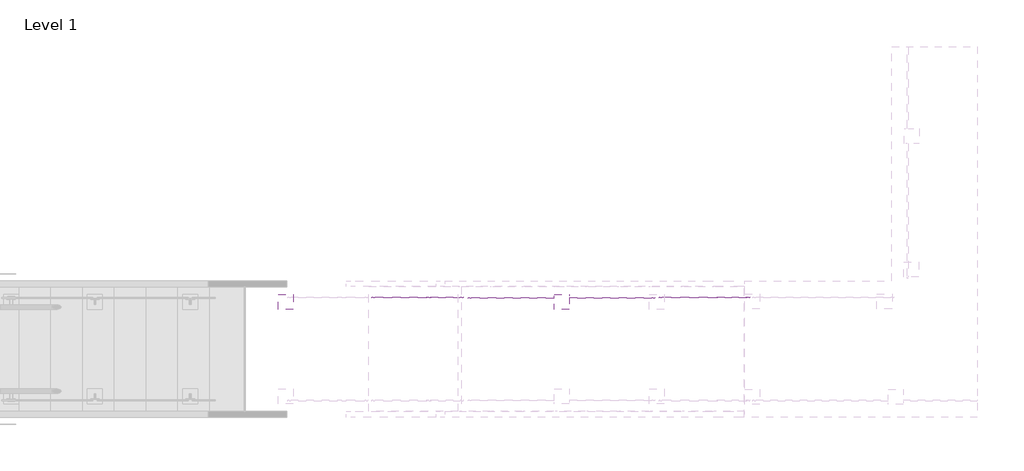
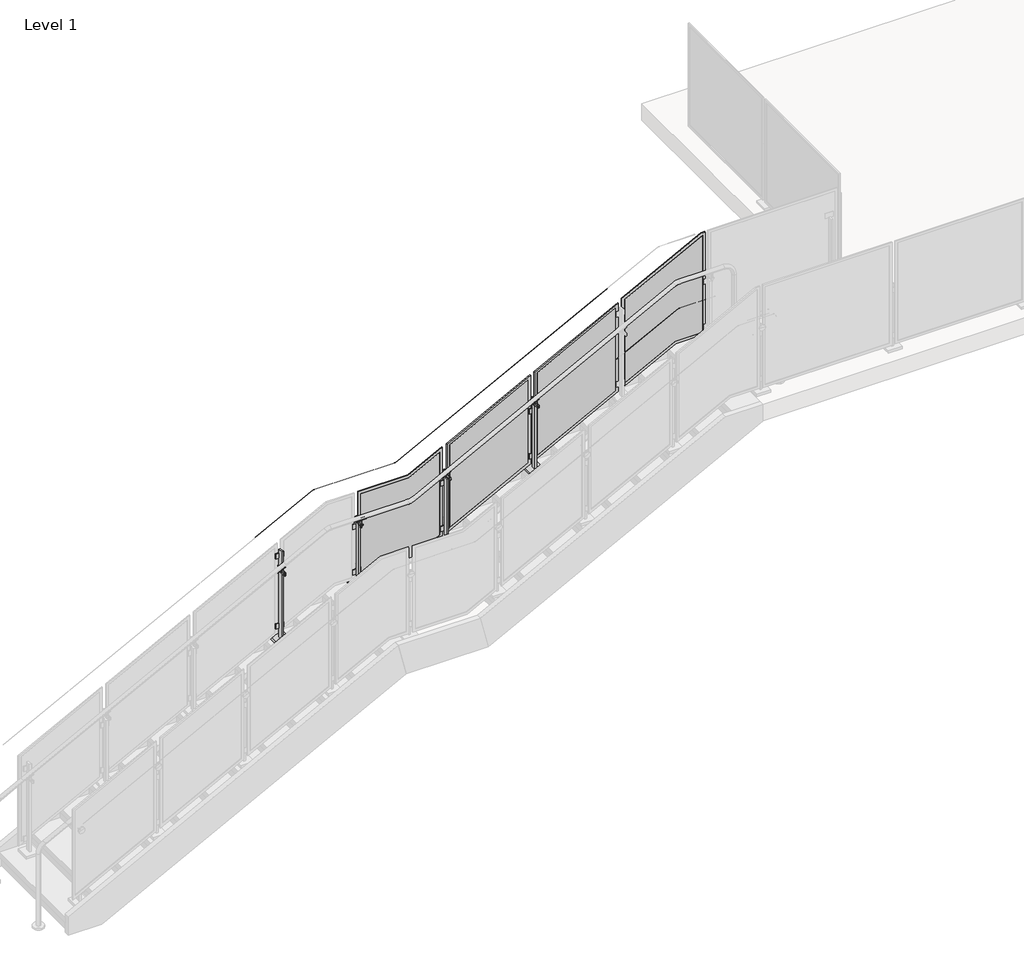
# One storey, part 14 of 28: 4 railings.
"""IFC4 building model written with IfcOpenShell, lengths in millimetres."""

from ifc_helpers import new_model, si_unit, point, frame, frame_2d, origin, place, context, project, spatial, polyline, circle_curve, ellipse_curve, trimmed, segment, composite_curve, outline, extrude, transform, mapped, element, save
from ifc_brep_helpers import plane_surface, cylinder_surface, advanced_brep
from components import standard_pp01_feaec1d1, standard_pp01_0bf05b01

model = new_model("IFC4")

# Units and contexts
model_context = context("Model", 3, world=origin())
ifc_project = project(units=[si_unit("LENGTHUNIT", "METRE", prefix="MILLI")], contexts=[model_context])

# Site, building, storey
site = spatial("IfcSite", under=ifc_project)
building = spatial("IfcBuilding", under=site)
storey = spatial("IfcBuildingStorey", under=building, Name="Level 1", Elevation=0.0)

# Railings
placement = place(None, origin())
element("IfcRailing", 1, ObjectType="Metal-Panel-VIVA-STRUC-Slab-Top-Anchor-Stairs-Landing", at=placement, inside=storey, context=model_context, shape_type="SolidModel", body=[
    advanced_brep(
    [(-16484.3313244, -17340.7578387, 2381.2638324), (-16484.3313244, -17339.7578387, 2381.2638324), (-15931.7592018, -17340.7578387, 2668.3142857), (-15931.7592018, -17339.7578387, 2668.3142857), (-15144.3592018, -17340.7578387, 2668.3142857), (-15144.3592018, -17339.7578387, 2668.3142857), (-13959.1395244, -17340.7578387, 3284.0128194), (-13959.1395244, -17339.7578387, 3284.0128194)],
    [
        (0, 1, ellipse_curve(frame((-16484.3313244, -17340.2578387, 2381.2638324), z_axis=(-1.0, 0.0, 0.0), x_axis=(0.0, 0.0, -1.0)), 0.5634403, 0.5)),
        (1, 0, ellipse_curve(frame((-16484.3313244, -17340.2578387, 2381.2638324), z_axis=(-1.0, 0.0, 0.0), x_axis=(0.0, 0.0, -1.0)), 0.5634403, 0.5)),
        (0, 2),
        (2, 3, ellipse_curve(frame((-15931.7592018, -17340.2578387, 2668.3142857), z_axis=(-0.9714436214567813, 0.0, -0.23727050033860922), x_axis=(0.23727050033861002, 0.0, -0.971443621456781)), 0.5146979, 0.5)),
        (3, 1),
        (3, 2, ellipse_curve(frame((-15931.7592018, -17340.2578387, 2668.3142857), z_axis=(-0.9714436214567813, 0.0, -0.23727050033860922), x_axis=(0.23727050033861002, 0.0, -0.971443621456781)), 0.5146979, 0.5)),
        (2, 4),
        (4, 5, ellipse_curve(frame((-15144.3592018, -17340.2578387, 2668.3142857), z_axis=(-0.9714436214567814, 0.0, -0.23727050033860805), x_axis=(-0.23727050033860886, 0.0, 0.9714436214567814)), 0.5146979, 0.5)),
        (5, 3),
        (5, 4, ellipse_curve(frame((-15144.3592018, -17340.2578387, 2668.3142857), z_axis=(-0.9714436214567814, 0.0, -0.23727050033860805), x_axis=(-0.23727050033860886, 0.0, 0.9714436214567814)), 0.5146979, 0.5)),
        (6, 7, ellipse_curve(frame((-13959.1395244, -17340.2578387, 3284.0128194), z_axis=(1.0, 0.0, 0.0), x_axis=(0.0, 0.0, -1.0)), 0.5634403, 0.5)),
        (7, 6, ellipse_curve(frame((-13959.1395244, -17340.2578387, 3284.0128194), z_axis=(1.0, 0.0, 0.0), x_axis=(0.0, 0.0, -1.0)), 0.5634403, 0.5)),
        (4, 6),
        (7, 5),
    ],
    [
        plane_surface(frame((-16484.3313244, -17340.2578387, 2381.8272727), z_axis=(-1.0, 0.0, 0.0), x_axis=(0.0, 1.0, 0.0))),
        cylinder_surface(frame((-16484.1008295, -17340.2578387, 2381.38357), z_axis=(-0.8874054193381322, 0.0, -0.4609898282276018), x_axis=(0.0, 1.0, 0.0)), 0.5),
        cylinder_surface(frame((-15931.8813244, -17340.2578387, 2668.3142857), z_axis=(-1.0, 0.0, 0.0), x_axis=(0.0, 1.0, 0.0)), 0.5),
        plane_surface(frame((-13959.1395244, -17340.2578387, 3284.5762597), z_axis=(1.0, 0.0, 0.0), x_axis=(0.0, 1.0, 0.0))),
        cylinder_surface(frame((-15144.2508295, -17340.2578387, 2668.370583), z_axis=(-0.8874054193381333, 0.0, -0.4609898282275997), x_axis=(0.0, 1.0, 0.0)), 0.5),
    ],
    [
        (0, [[1, 2]]),
        (1, [[-1, 3, 4, 5]]),
        (1, [[-2, -5, 6, -3]]),
        (2, [[-4, 7, 8, 9]]),
        (2, [[-6, -9, 10, -7]]),
        (3, [[11, 12]]),
        (4, [[-8, 13, -12, 14]]),
        (4, [[-10, -14, -11, -13]]),
    ],
),
    extrude(outline(polyline([(-14838.9708437, -17565.3750387), (-14838.9708437, -17558.2630387), (-14762.7694052, -17558.2630387), (-14762.7694052, -17565.3750387), (-14838.9708437, -17565.3750387)])), frame((0.0, 0.0, 2456.8331429), z_axis=(0.0, 0.0, 1.0), x_axis=(1.0, 0.0, 0.0)), (0.0, 0.0, 1.0), 50.8),
    extrude(outline(polyline([(-14838.9708437, -17565.3750387), (-14838.9708437, -17558.2630387), (-14762.7694052, -17558.2630387), (-14762.7694052, -17565.3750387), (-14838.9708437, -17565.3750387)])), frame((0.0, 0.0, 1999.6331429), z_axis=(0.0, 0.0, 1.0), x_axis=(1.0, 0.0, 0.0)), (0.0, 0.0, 1.0), 50.8),
    extrude(outline(composite_curve([segment(trimmed(circle_curve(frame_2d((-19.0451472, 1e-07)), 22.0448871), [point((2.99974, -1e-07))], [point((-24.3499073, -21.397116))], False, "CARTESIAN"), True, "CONTINUOUS"), segment(polyline([(-24.3499073, -21.397116), (-23.6280664, -18.4855208)]), True, "CONTINUOUS"), segment(trimmed(circle_curve(frame_2d((-19.0451472, 1e-07)), 19.0451471), [point((-23.6280664, -18.4855208))], [point((0.0, 0.0))], True, "CARTESIAN"), True, "CONTINUOUS"), segment(polyline([(0.0, 0.0), (2.99974, -1e-07)]), True, "CONTINUOUS")], self_intersect=False)), frame((-14863.3578349, -17619.4630387, 2605.6654072), z_axis=(0.887405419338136, 0.0, 0.46098982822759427), x_axis=(0.28405456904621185, 0.7876022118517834, -0.5468050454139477)), (0.0, 0.0, 1.0), 79.1184357),
    advanced_brep(
    [(-14788.4729468, -17634.4630387, 2547.3256434), (-14788.4729468, -17641.6067887, 2547.3256434), (-14788.4729468, -17627.3192887, 2547.3256434), (-14824.3321931, -17627.3192887, 2616.3546925), (-14824.3321931, -17641.6067887, 2616.3546925), (-14824.3321931, -17634.4630387, 2616.3546925)],
    [
        (0, 1),
        (1, 2, circle_curve(frame((-14788.4729468, -17634.4630387, 2547.3256434), z_axis=(0.4609898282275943, 0.0, -0.8874054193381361), x_axis=(0.0, -1.0, 0.0)), 7.14375)),
        (2, 0),
        (3, 4, circle_curve(frame((-14824.3321931, -17634.4630387, 2616.3546925), z_axis=(-0.4609898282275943, 0.0, 0.8874054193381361), x_axis=(0.0, -1.0, 0.0)), 7.14375)),
        (4, 5),
        (5, 3),
        (2, 1, circle_curve(frame((-14788.4729468, -17634.4630387, 2547.3256434), z_axis=(0.4609898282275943, 0.0, -0.8874054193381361), x_axis=(0.0, -1.0, 0.0)), 7.14375)),
        (4, 3, circle_curve(frame((-14824.3321931, -17634.4630387, 2616.3546925), z_axis=(-0.4609898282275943, 0.0, 0.8874054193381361), x_axis=(0.0, -1.0, 0.0)), 7.14375)),
        (1, 4),
        (3, 2),
    ],
    [
        plane_surface(frame((-14788.4729468, -17634.4630387, 2547.3256434), z_axis=(0.4609898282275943, 0.0, -0.8874054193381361), x_axis=(0.0, -1.0, 0.0))),
        plane_surface(frame((-14824.3321931, -17634.4630387, 2616.3546925), z_axis=(-0.4609898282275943, 0.0, 0.8874054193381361), x_axis=(0.0, -1.0, 0.0))),
        cylinder_surface(frame((-14671.5187469, -17634.4630387, 2322.1888087), z_axis=(0.4609898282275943, 0.0, -0.8874054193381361), x_axis=(0.0, -1.0, 0.0)), 7.14375),
    ],
    [
        (0, [[1, 2, 3]]),
        (1, [[4, 5, 6]]),
        (0, [[-3, 7, -1]]),
        (1, [[8, -6, -5]]),
        (2, [[-2, 9, -4, 10]]),
        (2, [[-7, -10, -8, -9]]),
    ],
),
    advanced_brep(
    [(-14827.6364904, -17548.7380387, 2557.2856047), (-14774.1037585, -17548.7380387, 2585.0948161), (-14795.2351, -17548.7380387, 2574.1174958), (-14806.5051488, -17548.7380387, 2568.262925), (-14827.6364904, -17540.8005387, 2557.2856047), (-14774.1037585, -17540.8005387, 2585.0948161), (-14827.6364904, -17566.2005387, 2557.2856047), (-14774.1037585, -17566.2005387, 2585.0948161), (-14789.6000756, -17566.2005387, 2577.0447812), (-14812.1401733, -17566.2005387, 2565.3356396), (-14827.6364904, -17558.2630387, 2557.2856047), (-14774.1037585, -17558.2630387, 2585.0948161), (-14800.8701244, -17540.8005387, 2571.1902104), (-14812.1401733, -17645.5755387, 2565.3356396), (-14789.6000756, -17645.5755387, 2577.0447812), (-14800.8701244, -17645.5755387, 2571.1902104), (-14806.5051488, -17558.2630387, 2568.262925), (-14795.2351, -17558.2630387, 2574.1174958)],
    [
        (0, 1, circle_curve(frame((-14800.8701244, -17548.7380387, 2571.1902104), z_axis=(0.0, -1.0, 0.0), x_axis=(0.8874054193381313, 0.0, 0.4609898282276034)), 30.1625)),
        (1, 2),
        (2, 3, circle_curve(frame((-14800.8701244, -17548.7380387, 2571.1902104), z_axis=(0.0, 1.0, 0.0), x_axis=(0.8874054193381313, 0.0, 0.4609898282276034)), 6.35)),
        (3, 0),
        (4, 5, circle_curve(frame((-14800.8701244, -17540.8005387, 2571.1902104), z_axis=(0.0, -1.0, 0.0), x_axis=(0.8874054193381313, 0.0, 0.4609898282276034)), 30.1625)),
        (5, 1),
        (0, 4),
        (6, 7, circle_curve(frame((-14800.8701244, -17566.2005387, 2571.1902104), z_axis=(0.0, -1.0, 0.0), x_axis=(0.8874054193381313, 0.0, 0.4609898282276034)), 30.1625)),
        (7, 8),
        (8, 9, circle_curve(frame((-14800.8701244, -17566.2005387, 2571.1902104), z_axis=(0.0, 1.0, 0.0), x_axis=(0.8874054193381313, 0.0, 0.4609898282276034)), 12.7)),
        (9, 6),
        (10, 11, circle_curve(frame((-14800.8701244, -17558.2630387, 2571.1902104), z_axis=(0.0, -1.0, 0.0), x_axis=(0.8874054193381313, 0.0, 0.4609898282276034)), 30.1625)),
        (11, 7),
        (6, 10),
        (5, 4, circle_curve(frame((-14800.8701244, -17540.8005387, 2571.1902104), z_axis=(0.0, -1.0, 0.0), x_axis=(0.8874054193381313, 0.0, 0.4609898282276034)), 30.1625)),
        (0, 1, circle_curve(frame((-14800.8701244, -17548.7380387, 2571.1902104), z_axis=(0.0, 1.0, 0.0), x_axis=(0.8874054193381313, 0.0, 0.4609898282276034)), 30.1625)),
        (12, 5),
        (4, 12),
        (13, 14, circle_curve(frame((-14800.8701244, -17645.5755387, 2571.1902104), z_axis=(0.0, -1.0, 0.0), x_axis=(0.8874054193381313, 0.0, 0.4609898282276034)), 12.7)),
        (14, 15),
        (15, 13),
        (14, 13, circle_curve(frame((-14800.8701244, -17645.5755387, 2571.1902104), z_axis=(0.0, -1.0, 0.0), x_axis=(0.8874054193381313, 0.0, 0.4609898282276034)), 12.7)),
        (8, 14),
        (13, 9),
        (8, 9, circle_curve(frame((-14800.8701244, -17566.2005387, 2571.1902104), z_axis=(0.0, -1.0, 0.0), x_axis=(0.8874054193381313, 0.0, 0.4609898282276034)), 12.7)),
        (7, 6, circle_curve(frame((-14800.8701244, -17566.2005387, 2571.1902104), z_axis=(0.0, -1.0, 0.0), x_axis=(0.8874054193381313, 0.0, 0.4609898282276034)), 30.1625)),
        (11, 10, circle_curve(frame((-14800.8701244, -17558.2630387, 2571.1902104), z_axis=(0.0, -1.0, 0.0), x_axis=(0.8874054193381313, 0.0, 0.4609898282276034)), 30.1625)),
        (16, 17, circle_curve(frame((-14800.8701244, -17558.2630387, 2571.1902104), z_axis=(0.0, -1.0, 0.0), x_axis=(0.8874054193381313, 0.0, 0.4609898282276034)), 6.35)),
        (17, 11),
        (10, 16),
        (17, 16, circle_curve(frame((-14800.8701244, -17558.2630387, 2571.1902104), z_axis=(0.0, -1.0, 0.0), x_axis=(0.8874054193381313, 0.0, 0.4609898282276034)), 6.35)),
        (2, 17),
        (16, 3),
        (2, 3, circle_curve(frame((-14800.8701244, -17548.7380387, 2571.1902104), z_axis=(0.0, -1.0, 0.0), x_axis=(0.8874054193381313, 0.0, 0.4609898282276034)), 6.35)),
    ],
    [
        plane_surface(frame((-14800.8701244, -17548.7380387, 2571.1902104), z_axis=(0.0, -1.0, 0.0), x_axis=(0.8874054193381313, 0.0, 0.4609898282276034))),
        cylinder_surface(frame((-14800.8701244, -16034.2630387, 2571.1902104), z_axis=(0.0, 1.0, 0.0), x_axis=(0.8874054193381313, 0.0, 0.4609898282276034)), 30.1625),
        plane_surface(frame((-14800.8701244, -17566.2005387, 2571.1902104), z_axis=(0.0, -1.0, 0.0), x_axis=(0.8874054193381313, 0.0, 0.4609898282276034))),
        plane_surface(frame((-14800.8701244, -17540.8005387, 2571.1902104), z_axis=(0.0, 1.0, 0.0), x_axis=(0.8874054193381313, 0.0, 0.4609898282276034))),
        plane_surface(frame((-14800.8701244, -17645.5755387, 2571.1902104), z_axis=(0.0, -1.0, 0.0), x_axis=(0.8874054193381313, 0.0, 0.4609898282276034))),
        cylinder_surface(frame((-14800.8701244, -16034.2630387, 2571.1902104), z_axis=(0.0, 1.0, 0.0), x_axis=(0.8874054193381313, 0.0, 0.4609898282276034)), 12.7),
        plane_surface(frame((-14800.8701244, -17558.2630387, 2571.1902104), z_axis=(0.0, 1.0, 0.0), x_axis=(0.8874054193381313, 0.0, 0.4609898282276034))),
        cylinder_surface(frame((-14800.8701244, -16034.2630387, 2571.1902104), z_axis=(0.0, 1.0, 0.0), x_axis=(0.8874054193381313, 0.0, 0.4609898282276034)), 6.35),
    ],
    [
        (0, [[1, 2, 3, 4]]),
        (1, [[5, 6, -1, 7]]),
        (2, [[8, 9, 10, 11]]),
        (1, [[12, 13, -8, 14]]),
        (1, [[15, -7, 16, -6]]),
        (3, [[17, -5, 18]]),
        (3, [[-18, -15, -17]]),
        (4, [[19, 20, 21]]),
        (4, [[22, -21, -20]]),
        (5, [[-10, 23, -19, 24]]),
        (5, [[25, -24, -22, -23]]),
        (2, [[26, -11, -25, -9]]),
        (1, [[27, -14, -26, -13]]),
        (6, [[28, 29, -12, 30]]),
        (6, [[31, -30, -27, -29]]),
        (7, [[-3, 32, -28, 33]]),
        (7, [[34, -33, -31, -32]]),
        (0, [[-16, -4, -34, -2]]),
    ],
),
    extrude(outline(polyline([(-14866.7577244, -17653.4876387), (-14866.7577244, -17521.7124387), (-14734.9825244, -17521.7124387), (-14734.9825244, -17653.4876387), (-14866.7577244, -17653.4876387)])), frame((0.0, 0.0, 1886.8571429), z_axis=(0.0, 0.0, 1.0), x_axis=(1.0, 0.0, 0.0)), (0.0, 0.0, 1.0), 25.4),
    extrude(outline(polyline([(-14808.8097161, -17609.8250387), (-14808.8097161, -17565.3750387), (-14792.9305328, -17565.3750387), (-14792.9305328, -17609.8250387), (-14808.8097161, -17609.8250387)])), frame((0.0, 0.0, 1886.8571429), z_axis=(0.0, 0.0, 1.0), x_axis=(1.0, 0.0, 0.0)), (0.0, 0.0, 1.0), 660.4),
    extrude(outline(polyline([(-15680.7014437, -17565.3750387), (-15680.7014437, -17558.2630387), (-15604.5000052, -17558.2630387), (-15604.5000052, -17565.3750387), (-15680.7014437, -17565.3750387)])), frame((0.0, 0.0, 2311.6902857), z_axis=(0.0, 0.0, 1.0), x_axis=(1.0, 0.0, 0.0)), (0.0, 0.0, 1.0), 50.8),
    extrude(outline(polyline([(-15680.7014437, -17565.3750387), (-15680.7014437, -17558.2630387), (-15604.5000052, -17558.2630387), (-15604.5000052, -17565.3750387), (-15680.7014437, -17565.3750387)])), frame((0.0, 0.0, 1854.4902857), z_axis=(0.0, 0.0, 1.0), x_axis=(1.0, 0.0, 0.0)), (0.0, 0.0, 1.0), 50.8),
    extrude(outline(composite_curve([segment(trimmed(circle_curve(frame_2d((-17634.4630387, 2463.8258766)), 22.0448871), [point((-17617.1004369, 2450.2421693))], [point((-17651.8256406, 2450.2421693))], False, "CARTESIAN"), True, "CONTINUOUS"), segment(polyline([(-17651.8256406, 2450.2421693), (-17649.4630387, 2452.0905611)]), True, "CONTINUOUS"), segment(trimmed(circle_curve(frame_2d((-17634.4630387, 2463.8258766)), 19.0451471), [point((-17649.4630387, 2452.0905611))], [point((-17619.4630387, 2452.0905611))], True, "CARTESIAN"), True, "CONTINUOUS"), segment(polyline([(-17619.4630387, 2452.0905611), (-17617.1004369, 2450.2421693)]), True, "CONTINUOUS")], self_intersect=False)), frame((-15682.1599423, 0.0, 0.0), z_axis=(1.0, 0.0, 0.0), x_axis=(0.0, 1.0, 0.0)), (0.0, 0.0, 1.0), 79.1184357),
    advanced_brep(
    [(-15642.6007244, -17634.4630387, 2365.7983669), (-15642.6007244, -17641.6067887, 2365.7983669), (-15642.6007244, -17627.3192887, 2365.7983669), (-15642.6007244, -17627.3192887, 2443.5858669), (-15642.6007244, -17641.6067887, 2443.5858669), (-15642.6007244, -17634.4630387, 2443.5858669)],
    [
        (0, 1),
        (1, 2, circle_curve(frame((-15642.6007244, -17634.4630387, 2365.7983669), z_axis=(0.0, 0.0, -1.0), x_axis=(0.0, -1.0, 0.0)), 7.14375)),
        (2, 0),
        (3, 4, circle_curve(frame((-15642.6007244, -17634.4630387, 2443.5858669), z_axis=(0.0, 0.0, 1.0), x_axis=(0.0, -1.0, 0.0)), 7.14375)),
        (4, 5),
        (5, 3),
        (2, 1, circle_curve(frame((-15642.6007244, -17634.4630387, 2365.7983669), z_axis=(0.0, 0.0, -1.0), x_axis=(0.0, -1.0, 0.0)), 7.14375)),
        (4, 3, circle_curve(frame((-15642.6007244, -17634.4630387, 2443.5858669), z_axis=(0.0, 0.0, 1.0), x_axis=(0.0, -1.0, 0.0)), 7.14375)),
        (1, 4),
        (3, 2),
    ],
    [
        plane_surface(frame((-15642.6007244, -17634.4630387, 2365.7983669), z_axis=(0.0, 0.0, -1.0), x_axis=(0.0, -1.0, 0.0))),
        plane_surface(frame((-15642.6007244, -17634.4630387, 2443.5858669), z_axis=(0.0, 0.0, 1.0), x_axis=(0.0, -1.0, 0.0))),
        cylinder_surface(frame((-15642.6007244, -17634.4630387, 2112.0960231), z_axis=(0.0, 0.0, -1.0), x_axis=(0.0, -1.0, 0.0)), 7.14375),
    ],
    [
        (0, [[1, 2, 3]]),
        (1, [[4, 5, 6]]),
        (0, [[-3, 7, -1]]),
        (1, [[8, -6, -5]]),
        (2, [[-2, 9, -4, 10]]),
        (2, [[-7, -10, -8, -9]]),
    ],
),
    advanced_brep(
    [(-15672.7632244, -17548.7380387, 2392.6908857), (-15612.4382244, -17548.7380387, 2392.6908857), (-15636.2507244, -17548.7380387, 2392.6908857), (-15648.9507244, -17548.7380387, 2392.6908857), (-15672.7632244, -17540.8005387, 2392.6908857), (-15612.4382244, -17540.8005387, 2392.6908857), (-15672.7632244, -17566.2005387, 2392.6908857), (-15612.4382244, -17566.2005387, 2392.6908857), (-15629.9007244, -17566.2005387, 2392.6908857), (-15655.3007244, -17566.2005387, 2392.6908857), (-15672.7632244, -17558.2630387, 2392.6908857), (-15612.4382244, -17558.2630387, 2392.6908857), (-15642.6007244, -17540.8005387, 2392.6908857), (-15655.3007244, -17645.5755387, 2392.6908857), (-15629.9007244, -17645.5755387, 2392.6908857), (-15642.6007244, -17645.5755387, 2392.6908857), (-15648.9507244, -17558.2630387, 2392.6908857), (-15636.2507244, -17558.2630387, 2392.6908857)],
    [
        (0, 1, circle_curve(frame((-15642.6007244, -17548.7380387, 2392.6908857), z_axis=(0.0, -1.0, 0.0), x_axis=(1.0, 0.0, 0.0)), 30.1625)),
        (1, 2),
        (2, 3, circle_curve(frame((-15642.6007244, -17548.7380387, 2392.6908857), z_axis=(0.0, 1.0, 0.0), x_axis=(1.0, 0.0, 0.0)), 6.35)),
        (3, 0),
        (4, 5, circle_curve(frame((-15642.6007244, -17540.8005387, 2392.6908857), z_axis=(0.0, -1.0, 0.0), x_axis=(1.0, 0.0, 0.0)), 30.1625)),
        (5, 1),
        (0, 4),
        (6, 7, circle_curve(frame((-15642.6007244, -17566.2005387, 2392.6908857), z_axis=(0.0, -1.0, 0.0), x_axis=(1.0, 0.0, 0.0)), 30.1625)),
        (7, 8),
        (8, 9, circle_curve(frame((-15642.6007244, -17566.2005387, 2392.6908857), z_axis=(0.0, 1.0, 0.0), x_axis=(1.0, 0.0, 0.0)), 12.7)),
        (9, 6),
        (10, 11, circle_curve(frame((-15642.6007244, -17558.2630387, 2392.6908857), z_axis=(0.0, -1.0, 0.0), x_axis=(1.0, 0.0, 0.0)), 30.1625)),
        (11, 7),
        (6, 10),
        (5, 4, circle_curve(frame((-15642.6007244, -17540.8005387, 2392.6908857), z_axis=(0.0, -1.0, 0.0), x_axis=(1.0, 0.0, 0.0)), 30.1625)),
        (0, 1, circle_curve(frame((-15642.6007244, -17548.7380387, 2392.6908857), z_axis=(0.0, 1.0, 0.0), x_axis=(1.0, 0.0, 0.0)), 30.1625)),
        (12, 5),
        (4, 12),
        (13, 14, circle_curve(frame((-15642.6007244, -17645.5755387, 2392.6908857), z_axis=(0.0, -1.0, 0.0), x_axis=(1.0, 0.0, 0.0)), 12.7)),
        (14, 15),
        (15, 13),
        (14, 13, circle_curve(frame((-15642.6007244, -17645.5755387, 2392.6908857), z_axis=(0.0, -1.0, 0.0), x_axis=(1.0, 0.0, 0.0)), 12.7)),
        (8, 14),
        (13, 9),
        (8, 9, circle_curve(frame((-15642.6007244, -17566.2005387, 2392.6908857), z_axis=(0.0, -1.0, 0.0), x_axis=(1.0, 0.0, 0.0)), 12.7)),
        (7, 6, circle_curve(frame((-15642.6007244, -17566.2005387, 2392.6908857), z_axis=(0.0, -1.0, 0.0), x_axis=(1.0, 0.0, 0.0)), 30.1625)),
        (11, 10, circle_curve(frame((-15642.6007244, -17558.2630387, 2392.6908857), z_axis=(0.0, -1.0, 0.0), x_axis=(1.0, 0.0, 0.0)), 30.1625)),
        (16, 17, circle_curve(frame((-15642.6007244, -17558.2630387, 2392.6908857), z_axis=(0.0, -1.0, 0.0), x_axis=(1.0, 0.0, 0.0)), 6.35)),
        (17, 11),
        (10, 16),
        (17, 16, circle_curve(frame((-15642.6007244, -17558.2630387, 2392.6908857), z_axis=(0.0, -1.0, 0.0), x_axis=(1.0, 0.0, 0.0)), 6.35)),
        (2, 17),
        (16, 3),
        (2, 3, circle_curve(frame((-15642.6007244, -17548.7380387, 2392.6908857), z_axis=(0.0, -1.0, 0.0), x_axis=(1.0, 0.0, 0.0)), 6.35)),
    ],
    [
        plane_surface(frame((-15642.6007244, -17548.7380387, 2392.6908857), z_axis=(0.0, -1.0, 0.0), x_axis=(1.0, 0.0, 0.0))),
        cylinder_surface(frame((-15642.6007244, -16034.2630387, 2392.6908857), z_axis=(0.0, 1.0, 0.0), x_axis=(1.0, 0.0, 0.0)), 30.1625),
        plane_surface(frame((-15642.6007244, -17566.2005387, 2392.6908857), z_axis=(0.0, -1.0, 0.0), x_axis=(1.0, 0.0, 0.0))),
        plane_surface(frame((-15642.6007244, -17540.8005387, 2392.6908857), z_axis=(0.0, 1.0, 0.0), x_axis=(1.0, 0.0, 0.0))),
        plane_surface(frame((-15642.6007244, -17645.5755387, 2392.6908857), z_axis=(0.0, -1.0, 0.0), x_axis=(1.0, 0.0, 0.0))),
        cylinder_surface(frame((-15642.6007244, -16034.2630387, 2392.6908857), z_axis=(0.0, 1.0, 0.0), x_axis=(1.0, 0.0, 0.0)), 12.7),
        plane_surface(frame((-15642.6007244, -17558.2630387, 2392.6908857), z_axis=(0.0, 1.0, 0.0), x_axis=(1.0, 0.0, 0.0))),
        cylinder_surface(frame((-15642.6007244, -16034.2630387, 2392.6908857), z_axis=(0.0, 1.0, 0.0), x_axis=(1.0, 0.0, 0.0)), 6.35),
    ],
    [
        (0, [[1, 2, 3, 4]]),
        (1, [[5, 6, -1, 7]]),
        (2, [[8, 9, 10, 11]]),
        (1, [[12, 13, -8, 14]]),
        (1, [[15, -7, 16, -6]]),
        (3, [[17, -5, 18]]),
        (3, [[-18, -15, -17]]),
        (4, [[19, 20, 21]]),
        (4, [[22, -21, -20]]),
        (5, [[-10, 23, -19, 24]]),
        (5, [[25, -24, -22, -23]]),
        (2, [[26, -11, -25, -9]]),
        (1, [[27, -14, -26, -13]]),
        (6, [[28, 29, -12, 30]]),
        (6, [[31, -30, -27, -29]]),
        (7, [[-3, 32, -28, 33]]),
        (7, [[34, -33, -31, -32]]),
        (0, [[-16, -4, -34, -2]]),
    ],
),
    extrude(outline(polyline([(-15708.4883244, -17653.4876387), (-15708.4883244, -17521.7124387), (-15576.7131244, -17521.7124387), (-15576.7131244, -17653.4876387), (-15708.4883244, -17653.4876387)])), frame((0.0, 0.0, 1741.7142857), z_axis=(0.0, 0.0, 1.0), x_axis=(1.0, 0.0, 0.0)), (0.0, 0.0, 1.0), 25.4),
    extrude(outline(polyline([(-15650.5403161, -17609.8250387), (-15650.5403161, -17565.3750387), (-15634.6611328, -17565.3750387), (-15634.6611328, -17609.8250387), (-15650.5403161, -17609.8250387)])), frame((0.0, 0.0, 1741.7142857), z_axis=(0.0, 0.0, 1.0), x_axis=(1.0, 0.0, 0.0)), (0.0, 0.0, 1.0), 660.4),
    extrude(outline(polyline([(-16420.8320437, -17565.3750387), (-16420.8320437, -17558.2630387), (-16344.6306052, -17558.2630387), (-16344.6306052, -17565.3750387), (-16420.8320437, -17565.3750387)])), frame((0.0, 0.0, 2275.4045714), z_axis=(0.0, 0.0, 1.0), x_axis=(1.0, 0.0, 0.0)), (0.0, 0.0, 1.0), 50.8),
    extrude(outline(polyline([(-16420.8320437, -17565.3750387), (-16420.8320437, -17558.2630387), (-16344.6306052, -17558.2630387), (-16344.6306052, -17565.3750387), (-16420.8320437, -17565.3750387)])), frame((0.0, 0.0, 1564.2045714), z_axis=(0.0, 0.0, 1.0), x_axis=(1.0, 0.0, 0.0)), (0.0, 0.0, 1.0), 50.8),
    extrude(outline(composite_curve([segment(trimmed(circle_curve(frame_2d((-19.0451472, 1e-07)), 22.0448871), [point((2.9997399, 0.0))], [point((-24.3499073, -21.3971159))], False, "CARTESIAN"), True, "CONTINUOUS"), segment(polyline([(-24.3499073, -21.3971159), (-23.6280664, -18.4855208)]), True, "CONTINUOUS"), segment(trimmed(circle_curve(frame_2d((-19.0451472, 1e-07)), 19.0451471), [point((-23.6280664, -18.4855208))], [point((0.0, 0.0))], True, "CARTESIAN"), True, "CONTINUOUS"), segment(polyline([(0.0, 0.0), (2.9997399, 0.0)]), True, "CONTINUOUS")], self_intersect=False)), frame((-16445.2190349, -17619.4630387, 2192.9582903), z_axis=(0.8874054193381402, 0.0, 0.4609898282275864), x_axis=(0.2840545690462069, 0.7876022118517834, -0.5468050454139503)), (0.0, 0.0, 1.0), 79.1184357),
    advanced_brep(
    [(-16370.3341468, -17634.4630387, 2134.6185266), (-16370.3341468, -17641.6067887, 2134.6185266), (-16370.3341468, -17627.3192887, 2134.6185266), (-16406.1933931, -17627.3192887, 2203.6475756), (-16406.1933931, -17641.6067887, 2203.6475756), (-16406.1933931, -17634.4630387, 2203.6475756)],
    [
        (0, 1),
        (1, 2, circle_curve(frame((-16370.3341468, -17634.4630387, 2134.6185266), z_axis=(0.4609898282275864, 0.0, -0.8874054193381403), x_axis=(0.0, -1.0000000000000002, 0.0)), 7.14375)),
        (2, 0),
        (3, 4, circle_curve(frame((-16406.1933931, -17634.4630387, 2203.6475756), z_axis=(-0.4609898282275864, 0.0, 0.8874054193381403), x_axis=(0.0, -1.0000000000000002, 0.0)), 7.14375)),
        (4, 5),
        (5, 3),
        (2, 1, circle_curve(frame((-16370.3341468, -17634.4630387, 2134.6185266), z_axis=(0.4609898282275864, 0.0, -0.8874054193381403), x_axis=(0.0, -1.0000000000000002, 0.0)), 7.14375)),
        (4, 3, circle_curve(frame((-16406.1933931, -17634.4630387, 2203.6475756), z_axis=(-0.4609898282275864, 0.0, 0.8874054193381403), x_axis=(0.0, -1.0000000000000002, 0.0)), 7.14375)),
        (1, 4),
        (3, 2),
    ],
    [
        plane_surface(frame((-16370.3341468, -17634.4630387, 2134.6185266), z_axis=(0.4609898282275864, 0.0, -0.8874054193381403), x_axis=(0.0, -1.0, 0.0))),
        plane_surface(frame((-16406.1933931, -17634.4630387, 2203.6475756), z_axis=(-0.4609898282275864, 0.0, 0.8874054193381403), x_axis=(0.0, -1.0, 0.0))),
        cylinder_surface(frame((-16253.3799469, -17634.4630387, 1909.4816918), z_axis=(0.4609898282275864, 0.0, -0.8874054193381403), x_axis=(0.0, -1.0000000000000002, 0.0)), 7.14375),
    ],
    [
        (0, [[1, 2, 3]]),
        (1, [[4, 5, 6]]),
        (0, [[-3, 7, -1]]),
        (1, [[8, -6, -5]]),
        (2, [[-2, 9, -4, 10]]),
        (2, [[-7, -10, -8, -9]]),
    ],
),
    advanced_brep(
    [(-16409.4976904, -17548.7380387, 2144.5784878), (-16355.9649585, -17548.7380387, 2172.3876992), (-16377.0963, -17548.7380387, 2161.4103789), (-16388.3663488, -17548.7380387, 2155.5558081), (-16409.4976904, -17540.8005387, 2144.5784878), (-16355.9649585, -17540.8005387, 2172.3876992), (-16409.4976904, -17566.2005387, 2144.5784878), (-16355.9649585, -17566.2005387, 2172.3876992), (-16371.4612756, -17566.2005387, 2164.3376643), (-16394.0013733, -17566.2005387, 2152.6285227), (-16409.4976904, -17558.2630387, 2144.5784878), (-16355.9649585, -17558.2630387, 2172.3876992), (-16382.7313244, -17540.8005387, 2158.4830935), (-16394.0013733, -17645.5755387, 2152.6285227), (-16371.4612756, -17645.5755387, 2164.3376643), (-16382.7313244, -17645.5755387, 2158.4830935), (-16388.3663488, -17558.2630387, 2155.5558081), (-16377.0963, -17558.2630387, 2161.4103789)],
    [
        (0, 1, circle_curve(frame((-16382.7313244, -17548.7380387, 2158.4830935), z_axis=(0.0, -1.0, 0.0), x_axis=(0.8874054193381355, 0.0, 0.4609898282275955)), 30.1625)),
        (1, 2),
        (2, 3, circle_curve(frame((-16382.7313244, -17548.7380387, 2158.4830935), z_axis=(0.0, 1.0, 0.0), x_axis=(0.8874054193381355, 0.0, 0.4609898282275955)), 6.35)),
        (3, 0),
        (4, 5, circle_curve(frame((-16382.7313244, -17540.8005387, 2158.4830935), z_axis=(0.0, -1.0, 0.0), x_axis=(0.8874054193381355, 0.0, 0.4609898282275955)), 30.1625)),
        (5, 1),
        (0, 4),
        (6, 7, circle_curve(frame((-16382.7313244, -17566.2005387, 2158.4830935), z_axis=(0.0, -1.0, 0.0), x_axis=(0.8874054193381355, 0.0, 0.4609898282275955)), 30.1625)),
        (7, 8),
        (8, 9, circle_curve(frame((-16382.7313244, -17566.2005387, 2158.4830935), z_axis=(0.0, 1.0, 0.0), x_axis=(0.8874054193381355, 0.0, 0.4609898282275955)), 12.7)),
        (9, 6),
        (10, 11, circle_curve(frame((-16382.7313244, -17558.2630387, 2158.4830935), z_axis=(0.0, -1.0, 0.0), x_axis=(0.8874054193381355, 0.0, 0.4609898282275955)), 30.1625)),
        (11, 7),
        (6, 10),
        (5, 4, circle_curve(frame((-16382.7313244, -17540.8005387, 2158.4830935), z_axis=(0.0, -1.0, 0.0), x_axis=(0.8874054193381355, 0.0, 0.4609898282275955)), 30.1625)),
        (0, 1, circle_curve(frame((-16382.7313244, -17548.7380387, 2158.4830935), z_axis=(0.0, 1.0, 0.0), x_axis=(0.8874054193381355, 0.0, 0.4609898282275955)), 30.1625)),
        (12, 5),
        (4, 12),
        (13, 14, circle_curve(frame((-16382.7313244, -17645.5755387, 2158.4830935), z_axis=(0.0, -1.0, 0.0), x_axis=(0.8874054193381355, 0.0, 0.4609898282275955)), 12.7)),
        (14, 15),
        (15, 13),
        (14, 13, circle_curve(frame((-16382.7313244, -17645.5755387, 2158.4830935), z_axis=(0.0, -1.0, 0.0), x_axis=(0.8874054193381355, 0.0, 0.4609898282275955)), 12.7)),
        (8, 14),
        (13, 9),
        (8, 9, circle_curve(frame((-16382.7313244, -17566.2005387, 2158.4830935), z_axis=(0.0, -1.0, 0.0), x_axis=(0.8874054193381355, 0.0, 0.4609898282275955)), 12.7)),
        (7, 6, circle_curve(frame((-16382.7313244, -17566.2005387, 2158.4830935), z_axis=(0.0, -1.0, 0.0), x_axis=(0.8874054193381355, 0.0, 0.4609898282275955)), 30.1625)),
        (11, 10, circle_curve(frame((-16382.7313244, -17558.2630387, 2158.4830935), z_axis=(0.0, -1.0, 0.0), x_axis=(0.8874054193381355, 0.0, 0.4609898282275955)), 30.1625)),
        (16, 17, circle_curve(frame((-16382.7313244, -17558.2630387, 2158.4830935), z_axis=(0.0, -1.0, 0.0), x_axis=(0.8874054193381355, 0.0, 0.4609898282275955)), 6.35)),
        (17, 11),
        (10, 16),
        (17, 16, circle_curve(frame((-16382.7313244, -17558.2630387, 2158.4830935), z_axis=(0.0, -1.0, 0.0), x_axis=(0.8874054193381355, 0.0, 0.4609898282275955)), 6.35)),
        (2, 17),
        (16, 3),
        (2, 3, circle_curve(frame((-16382.7313244, -17548.7380387, 2158.4830935), z_axis=(0.0, -1.0, 0.0), x_axis=(0.8874054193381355, 0.0, 0.4609898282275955)), 6.35)),
    ],
    [
        plane_surface(frame((-16382.7313244, -17548.7380387, 2158.4830935), z_axis=(0.0, -1.0000000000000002, 0.0), x_axis=(0.8874054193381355, 0.0, 0.4609898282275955))),
        cylinder_surface(frame((-16382.7313244, -16034.2630387, 2158.4830935), z_axis=(0.0, 1.0000000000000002, 0.0), x_axis=(0.8874054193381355, 0.0, 0.4609898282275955)), 30.1625),
        plane_surface(frame((-16382.7313244, -17566.2005387, 2158.4830935), z_axis=(0.0, -1.0000000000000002, 0.0), x_axis=(0.8874054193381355, 0.0, 0.4609898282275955))),
        plane_surface(frame((-16382.7313244, -17540.8005387, 2158.4830935), z_axis=(0.0, 1.0000000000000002, 0.0), x_axis=(0.8874054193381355, 0.0, 0.4609898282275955))),
        plane_surface(frame((-16382.7313244, -17645.5755387, 2158.4830935), z_axis=(0.0, -1.0000000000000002, 0.0), x_axis=(0.8874054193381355, 0.0, 0.4609898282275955))),
        cylinder_surface(frame((-16382.7313244, -16034.2630387, 2158.4830935), z_axis=(0.0, 1.0000000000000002, 0.0), x_axis=(0.8874054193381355, 0.0, 0.4609898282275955)), 12.7),
        plane_surface(frame((-16382.7313244, -17558.2630387, 2158.4830935), z_axis=(0.0, 1.0000000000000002, 0.0), x_axis=(0.8874054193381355, 0.0, 0.4609898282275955))),
        cylinder_surface(frame((-16382.7313244, -16034.2630387, 2158.4830935), z_axis=(0.0, 1.0000000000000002, 0.0), x_axis=(0.8874054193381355, 0.0, 0.4609898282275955)), 6.35),
    ],
    [
        (0, [[1, 2, 3, 4]]),
        (1, [[5, 6, -1, 7]]),
        (2, [[8, 9, 10, 11]]),
        (1, [[12, 13, -8, 14]]),
        (1, [[15, -7, 16, -6]]),
        (3, [[17, -5, 18]]),
        (3, [[-18, -15, -17]]),
        (4, [[19, 20, 21]]),
        (4, [[22, -21, -20]]),
        (5, [[-10, 23, -19, 24]]),
        (5, [[25, -24, -22, -23]]),
        (2, [[26, -11, -25, -9]]),
        (1, [[27, -14, -26, -13]]),
        (6, [[28, 29, -12, 30]]),
        (6, [[31, -30, -27, -29]]),
        (7, [[-3, 32, -28, 33]]),
        (7, [[34, -33, -31, -32]]),
        (0, [[-16, -4, -34, -2]]),
    ],
),
    extrude(outline(polyline([(-16448.6189244, -17653.4876387), (-16448.6189244, -17521.7124387), (-16316.8437244, -17521.7124387), (-16316.8437244, -17653.4876387), (-16448.6189244, -17653.4876387)])), frame((0.0, 0.0, 1451.4285714), z_axis=(0.0, 0.0, 1.0), x_axis=(1.0, 0.0, 0.0)), (0.0, 0.0, 1.0), 25.4),
    extrude(outline(polyline([(-16390.6709161, -17609.8250387), (-16390.6709161, -17565.3750387), (-16374.7917328, -17565.3750387), (-16374.7917328, -17609.8250387), (-16390.6709161, -17609.8250387)])), frame((0.0, 0.0, 1451.4285714), z_axis=(0.0, 0.0, 1.0), x_axis=(1.0, 0.0, 0.0)), (0.0, 0.0, 1.0), 914.4),
])
element("IfcRailing", 2, ObjectType="Metal-Panel-VIVA-STRUC-Slab-Top-Anchor-Stairs-Upper", at=placement, inside=storey, context=model_context, shape_type="SolidModel", body=[
    advanced_brep(
    [(-14795.2265621, -17340.7578387, 2849.6818907), (-14795.2265621, -17339.7578387, 2849.6818907), (-13118.8265621, -17340.7578387, 3720.5390336), (-13118.8265621, -17339.7578387, 3720.5390336)],
    [
        (0, 1, ellipse_curve(frame((-14795.2265621, -17340.2578387, 2849.6818907), z_axis=(-1.0, 0.0, 0.0), x_axis=(0.0, 0.0, -1.0)), 0.5634403, 0.5)),
        (1, 0, ellipse_curve(frame((-14795.2265621, -17340.2578387, 2849.6818907), z_axis=(-1.0, 0.0, 0.0), x_axis=(0.0, 0.0, -1.0)), 0.5634403, 0.5)),
        (2, 3, ellipse_curve(frame((-13118.8265621, -17340.2578387, 3720.5390336), z_axis=(1.0, 0.0, 0.0), x_axis=(0.0, 0.0, -1.0)), 0.5634403, 0.5)),
        (3, 2, ellipse_curve(frame((-13118.8265621, -17340.2578387, 3720.5390336), z_axis=(1.0, 0.0, 0.0), x_axis=(0.0, 0.0, -1.0)), 0.5634403, 0.5)),
        (0, 2),
        (3, 1),
    ],
    [
        plane_surface(frame((-14795.2265621, -17340.2578387, 2850.2453311), z_axis=(-1.0, 0.0, 0.0), x_axis=(0.0, 1.0, 0.0))),
        plane_surface(frame((-13118.8265621, -17340.2578387, 3721.1024739), z_axis=(1.0, 0.0, 0.0), x_axis=(0.0, 1.0, 0.0))),
        cylinder_surface(frame((-14794.9960672, -17340.2578387, 2849.8016284), z_axis=(-0.8874054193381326, 0.0, -0.46098982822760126), x_axis=(0.0, 1.0, 0.0)), 0.5),
    ],
    [
        (0, [[1, 2]]),
        (1, [[3, 4]]),
        (2, [[-1, 5, -4, 6]]),
        (2, [[-2, -6, -3, -5]]),
    ],
),
    extrude(outline(polyline([(2443.6978914, -13912.5806052), (2832.9488452, -13163.2725191), (3666.9458682, -13163.2725191), (3277.6949144, -13912.5806052), (2443.6978914, -13912.5806052)])), frame((0.0, -17557.9088387, 0.0), z_axis=(0.0, 1.0, 0.0), x_axis=(0.0, 0.0, 1.0)), (0.0, 0.0, 1.0), 3.0),
    extrude(outline(polyline([(3293.1228778, -13937.9806052), (2401.8803176, -13937.9806052), (2817.5208818, -13137.8725191), (3708.7634421, -13137.8725191), (3293.1228778, -13937.9806052)]), holes=[polyline([(2443.6978914, -13912.5806052), (3277.6949144, -13912.5806052), (3666.9458682, -13163.2725191), (2832.9488452, -13163.2725191), (2443.6978914, -13912.5806052)])]), frame((0.0, -17557.9088387, 0.0), z_axis=(0.0, 1.0, 0.0), x_axis=(0.0, 0.0, 1.0)), (0.0, 0.0, 1.0), 9.525),
    extrude(outline(polyline([(-13995.1272814, -17565.3750387), (-13995.1272814, -17558.2630387), (-13918.9258429, -17558.2630387), (-13918.9258429, -17565.3750387), (-13995.1272814, -17565.3750387)])), frame((0.0, 0.0, 2892.2617143), z_axis=(0.0, 0.0, 1.0), x_axis=(1.0, 0.0, 0.0)), (0.0, 0.0, 1.0), 50.8),
    extrude(outline(polyline([(-13995.1272814, -17565.3750387), (-13995.1272814, -17558.2630387), (-13918.9258429, -17558.2630387), (-13918.9258429, -17565.3750387), (-13995.1272814, -17565.3750387)])), frame((0.0, 0.0, 2435.0617143), z_axis=(0.0, 0.0, 1.0), x_axis=(1.0, 0.0, 0.0)), (0.0, 0.0, 1.0), 50.8),
    extrude(outline(composite_curve([segment(trimmed(circle_curve(frame_2d((-19.0451472, 1e-07)), 22.0448871), [point((2.9997399, 0.0))], [point((-24.3499073, -21.3971159))], False, "CARTESIAN"), True, "CONTINUOUS"), segment(polyline([(-24.3499073, -21.3971159), (-23.6280664, -18.4855208)]), True, "CONTINUOUS"), segment(trimmed(circle_curve(frame_2d((-19.0451472, 1e-07)), 19.0451471), [point((-23.6280664, -18.4855208))], [point((0.0, 0.0))], True, "CARTESIAN"), True, "CONTINUOUS"), segment(polyline([(0.0, 0.0), (2.9997399, 0.0)]), True, "CONTINUOUS")], self_intersect=False)), frame((-14019.5142726, -17619.4630387, 3044.0256993), z_axis=(0.8874054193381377, 0.0, 0.46098982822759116), x_axis=(0.28405456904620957, 0.7876022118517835, -0.5468050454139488)), (0.0, 0.0, 1.0), 79.1184357),
    advanced_brep(
    [(-13944.6293845, -17634.4630387, 2985.6859356), (-13944.6293845, -17641.6067887, 2985.6859356), (-13944.6293845, -17627.3192887, 2985.6859356), (-13980.4886307, -17627.3192887, 3054.7149846), (-13980.4886307, -17641.6067887, 3054.7149846), (-13980.4886307, -17634.4630387, 3054.7149846)],
    [
        (0, 1),
        (1, 2, circle_curve(frame((-13944.6293845, -17634.4630387, 2985.6859356), z_axis=(0.46098982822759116, 0.0, -0.8874054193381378), x_axis=(0.0, -1.0, 0.0)), 7.14375)),
        (2, 0),
        (3, 4, circle_curve(frame((-13980.4886307, -17634.4630387, 3054.7149846), z_axis=(-0.46098982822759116, 0.0, 0.8874054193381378), x_axis=(0.0, -1.0, 0.0)), 7.14375)),
        (4, 5),
        (5, 3),
        (2, 1, circle_curve(frame((-13944.6293845, -17634.4630387, 2985.6859356), z_axis=(0.46098982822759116, 0.0, -0.8874054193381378), x_axis=(0.0, -1.0, 0.0)), 7.14375)),
        (4, 3, circle_curve(frame((-13980.4886307, -17634.4630387, 3054.7149846), z_axis=(-0.46098982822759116, 0.0, 0.8874054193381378), x_axis=(0.0, -1.0, 0.0)), 7.14375)),
        (1, 4),
        (3, 2),
    ],
    [
        plane_surface(frame((-13944.6293845, -17634.4630387, 2985.6859356), z_axis=(0.46098982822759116, 0.0, -0.8874054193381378), x_axis=(0.0, -1.0, 0.0))),
        plane_surface(frame((-13980.4886307, -17634.4630387, 3054.7149846), z_axis=(-0.46098982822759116, 0.0, 0.8874054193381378), x_axis=(0.0, -1.0, 0.0))),
        cylinder_surface(frame((-13827.6751846, -17634.4630387, 2760.5491008), z_axis=(0.46098982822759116, 0.0, -0.8874054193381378), x_axis=(0.0, -1.0, 0.0)), 7.14375),
    ],
    [
        (0, [[1, 2, 3]]),
        (1, [[4, 5, 6]]),
        (0, [[-3, 7, -1]]),
        (1, [[8, -6, -5]]),
        (2, [[-2, 9, -4, 10]]),
        (2, [[-7, -10, -8, -9]]),
    ],
),
    advanced_brep(
    [(-13983.7929281, -17548.7380387, 2995.6458968), (-13930.2601962, -17548.7380387, 3023.4551082), (-13951.3915377, -17548.7380387, 3012.4777879), (-13962.6615865, -17548.7380387, 3006.6232171), (-13983.7929281, -17540.8005387, 2995.6458968), (-13930.2601962, -17540.8005387, 3023.4551082), (-13983.7929281, -17566.2005387, 2995.6458968), (-13930.2601962, -17566.2005387, 3023.4551082), (-13945.7565133, -17566.2005387, 3015.4050733), (-13968.2966109, -17566.2005387, 3003.6959317), (-13983.7929281, -17558.2630387, 2995.6458968), (-13930.2601962, -17558.2630387, 3023.4551082), (-13957.0265621, -17540.8005387, 3009.5505025), (-13968.2966109, -17645.5755387, 3003.6959317), (-13945.7565133, -17645.5755387, 3015.4050733), (-13957.0265621, -17645.5755387, 3009.5505025), (-13962.6615865, -17558.2630387, 3006.6232171), (-13951.3915377, -17558.2630387, 3012.4777879)],
    [
        (0, 1, circle_curve(frame((-13957.0265621, -17548.7380387, 3009.5505025), z_axis=(0.0, -1.0, 0.0), x_axis=(0.887405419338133, 0.0, 0.46098982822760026)), 30.1625)),
        (1, 2),
        (2, 3, circle_curve(frame((-13957.0265621, -17548.7380387, 3009.5505025), z_axis=(0.0, 1.0, 0.0), x_axis=(0.887405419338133, 0.0, 0.46098982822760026)), 6.35)),
        (3, 0),
        (4, 5, circle_curve(frame((-13957.0265621, -17540.8005387, 3009.5505025), z_axis=(0.0, -1.0, 0.0), x_axis=(0.887405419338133, 0.0, 0.46098982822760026)), 30.1625)),
        (5, 1),
        (0, 4),
        (6, 7, circle_curve(frame((-13957.0265621, -17566.2005387, 3009.5505025), z_axis=(0.0, -1.0, 0.0), x_axis=(0.887405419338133, 0.0, 0.46098982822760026)), 30.1625)),
        (7, 8),
        (8, 9, circle_curve(frame((-13957.0265621, -17566.2005387, 3009.5505025), z_axis=(0.0, 1.0, 0.0), x_axis=(0.887405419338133, 0.0, 0.46098982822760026)), 12.7)),
        (9, 6),
        (10, 11, circle_curve(frame((-13957.0265621, -17558.2630387, 3009.5505025), z_axis=(0.0, -1.0, 0.0), x_axis=(0.887405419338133, 0.0, 0.46098982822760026)), 30.1625)),
        (11, 7),
        (6, 10),
        (5, 4, circle_curve(frame((-13957.0265621, -17540.8005387, 3009.5505025), z_axis=(0.0, -1.0, 0.0), x_axis=(0.887405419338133, 0.0, 0.46098982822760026)), 30.1625)),
        (0, 1, circle_curve(frame((-13957.0265621, -17548.7380387, 3009.5505025), z_axis=(0.0, 1.0, 0.0), x_axis=(0.887405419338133, 0.0, 0.46098982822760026)), 30.1625)),
        (12, 5),
        (4, 12),
        (13, 14, circle_curve(frame((-13957.0265621, -17645.5755387, 3009.5505025), z_axis=(0.0, -1.0, 0.0), x_axis=(0.887405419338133, 0.0, 0.46098982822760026)), 12.7)),
        (14, 15),
        (15, 13),
        (14, 13, circle_curve(frame((-13957.0265621, -17645.5755387, 3009.5505025), z_axis=(0.0, -1.0, 0.0), x_axis=(0.887405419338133, 0.0, 0.46098982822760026)), 12.7)),
        (8, 14),
        (13, 9),
        (8, 9, circle_curve(frame((-13957.0265621, -17566.2005387, 3009.5505025), z_axis=(0.0, -1.0, 0.0), x_axis=(0.887405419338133, 0.0, 0.46098982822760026)), 12.7)),
        (7, 6, circle_curve(frame((-13957.0265621, -17566.2005387, 3009.5505025), z_axis=(0.0, -1.0, 0.0), x_axis=(0.887405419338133, 0.0, 0.46098982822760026)), 30.1625)),
        (11, 10, circle_curve(frame((-13957.0265621, -17558.2630387, 3009.5505025), z_axis=(0.0, -1.0, 0.0), x_axis=(0.887405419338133, 0.0, 0.46098982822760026)), 30.1625)),
        (16, 17, circle_curve(frame((-13957.0265621, -17558.2630387, 3009.5505025), z_axis=(0.0, -1.0, 0.0), x_axis=(0.887405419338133, 0.0, 0.46098982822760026)), 6.35)),
        (17, 11),
        (10, 16),
        (17, 16, circle_curve(frame((-13957.0265621, -17558.2630387, 3009.5505025), z_axis=(0.0, -1.0, 0.0), x_axis=(0.887405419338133, 0.0, 0.46098982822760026)), 6.35)),
        (2, 17),
        (16, 3),
        (2, 3, circle_curve(frame((-13957.0265621, -17548.7380387, 3009.5505025), z_axis=(0.0, -1.0, 0.0), x_axis=(0.887405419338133, 0.0, 0.46098982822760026)), 6.35)),
    ],
    [
        plane_surface(frame((-13957.0265621, -17548.7380387, 3009.5505025), z_axis=(0.0, -1.0, 0.0), x_axis=(0.887405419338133, 0.0, 0.46098982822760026))),
        cylinder_surface(frame((-13957.0265621, -16034.2630387, 3009.5505025), z_axis=(0.0, 1.0, 0.0), x_axis=(0.887405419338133, 0.0, 0.46098982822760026)), 30.1625),
        plane_surface(frame((-13957.0265621, -17566.2005387, 3009.5505025), z_axis=(0.0, -1.0, 0.0), x_axis=(0.887405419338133, 0.0, 0.46098982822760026))),
        plane_surface(frame((-13957.0265621, -17540.8005387, 3009.5505025), z_axis=(0.0, 1.0, 0.0), x_axis=(0.887405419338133, 0.0, 0.46098982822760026))),
        plane_surface(frame((-13957.0265621, -17645.5755387, 3009.5505025), z_axis=(0.0, -1.0, 0.0), x_axis=(0.887405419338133, 0.0, 0.46098982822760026))),
        cylinder_surface(frame((-13957.0265621, -16034.2630387, 3009.5505025), z_axis=(0.0, 1.0, 0.0), x_axis=(0.887405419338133, 0.0, 0.46098982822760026)), 12.7),
        plane_surface(frame((-13957.0265621, -17558.2630387, 3009.5505025), z_axis=(0.0, 1.0, 0.0), x_axis=(0.887405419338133, 0.0, 0.46098982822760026))),
        cylinder_surface(frame((-13957.0265621, -16034.2630387, 3009.5505025), z_axis=(0.0, 1.0, 0.0), x_axis=(0.887405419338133, 0.0, 0.46098982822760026)), 6.35),
    ],
    [
        (0, [[1, 2, 3, 4]]),
        (1, [[5, 6, -1, 7]]),
        (2, [[8, 9, 10, 11]]),
        (1, [[12, 13, -8, 14]]),
        (1, [[15, -7, 16, -6]]),
        (3, [[17, -5, 18]]),
        (3, [[-18, -15, -17]]),
        (4, [[19, 20, 21]]),
        (4, [[22, -21, -20]]),
        (5, [[-10, 23, -19, 24]]),
        (5, [[25, -24, -22, -23]]),
        (2, [[26, -11, -25, -9]]),
        (1, [[27, -14, -26, -13]]),
        (6, [[28, 29, -12, 30]]),
        (6, [[31, -30, -27, -29]]),
        (7, [[-3, 32, -28, 33]]),
        (7, [[34, -33, -31, -32]]),
        (0, [[-16, -4, -34, -2]]),
    ],
),
    extrude(outline(polyline([(-14022.9141621, -17653.4876387), (-14022.9141621, -17521.7124387), (-13891.1389621, -17521.7124387), (-13891.1389621, -17653.4876387), (-14022.9141621, -17653.4876387)])), frame((0.0, 0.0, 2322.2857143), z_axis=(0.0, 0.0, 1.0), x_axis=(1.0, 0.0, 0.0)), (0.0, 0.0, 1.0), 25.4),
    extrude(outline(polyline([(-13964.9661538, -17609.8250387), (-13964.9661538, -17565.3750387), (-13949.0869705, -17565.3750387), (-13949.0869705, -17609.8250387), (-13964.9661538, -17609.8250387)])), frame((0.0, 0.0, 2322.2857143), z_axis=(0.0, 0.0, 1.0), x_axis=(1.0, 0.0, 0.0)), (0.0, 0.0, 1.0), 660.4),
    extrude(outline(polyline([(2008.26932, -14750.7806052), (2397.5202738, -14001.4725191), (3231.5172968, -14001.4725191), (2842.266343, -14750.7806052), (2008.26932, -14750.7806052)])), frame((0.0, -17557.9088387, 0.0), z_axis=(0.0, 1.0, 0.0), x_axis=(0.0, 0.0, 1.0)), (0.0, 0.0, 1.0), 3.0),
    extrude(outline(polyline([(2857.6943064, -14776.1806052), (1966.4517462, -14776.1806052), (2382.0923104, -13976.0725191), (3273.3348706, -13976.0725191), (2857.6943064, -14776.1806052)]), holes=[polyline([(2008.26932, -14750.7806052), (2842.266343, -14750.7806052), (3231.5172968, -14001.4725191), (2397.5202738, -14001.4725191), (2008.26932, -14750.7806052)])]), frame((0.0, -17557.9088387, 0.0), z_axis=(0.0, 1.0, 0.0), x_axis=(0.0, 0.0, 1.0)), (0.0, 0.0, 1.0), 9.525),
])
standard_pp01_shape = standard_pp01_feaec1d1(model_context)
element("IfcRailing", 3, ObjectType="Baluster-Landing-Panel-VIVA-STRUC-Upper : Standard_PP01", at=placement, inside=storey, context=model_context, shape_type="MappedRepresentation", body=[
    mapped(standard_pp01_shape, transform((-15804.658102, -17488.9337387, 1732.5923434), x_axis=(0.0, -1.0, 0.0), y_axis=(1.0, 0.0, 0.0), z_axis=(0.0, 0.0, 1.0))),
])
standard_pp01_2_shape = standard_pp01_0bf05b01(model_context)
element("IfcRailing", 4, ObjectType="Baluster-Landing-Panel-VIVA-STRUC-Lower : Standard_PP01", at=placement, inside=storey, context=model_context, shape_type="MappedRepresentation", body=[
    mapped(standard_pp01_2_shape, transform((-13099.7710806, -17536.943353, 3204.6365237), x_axis=(0.0, -1.0, 0.0), y_axis=(1.0, 0.0, 0.0), z_axis=(0.0, 0.0, 1.0))),
])

save(model, "model.ifc")
